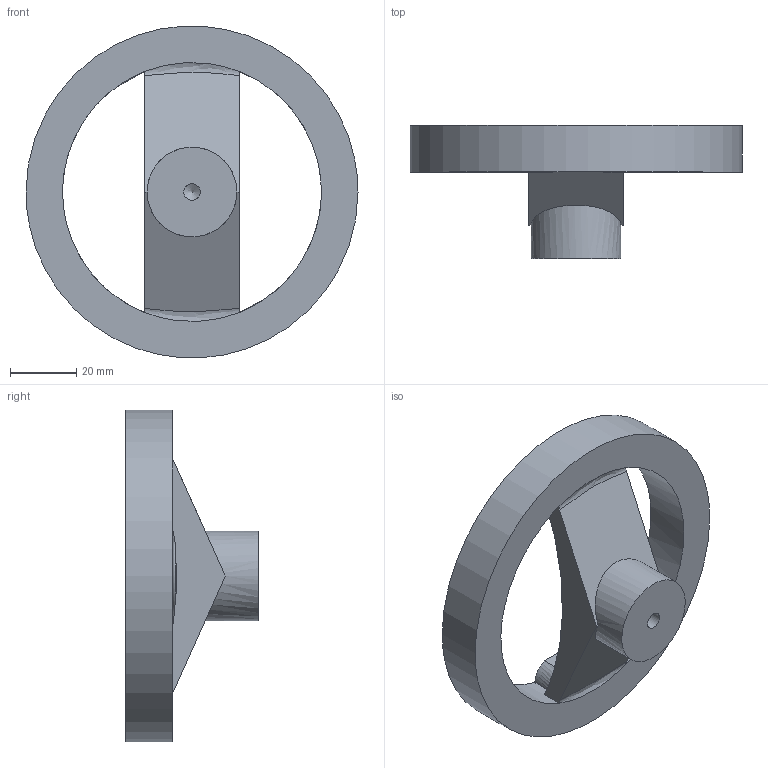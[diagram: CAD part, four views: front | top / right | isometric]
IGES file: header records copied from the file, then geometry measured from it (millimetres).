
Global section: file name: DR_ASH_M; native system: Autodesk Inventor 2015; preprocessor: unknown; author: Administrator; date: 20170808.090314; units: millimetre
Bounding box: 100 x 40 x 99.82 mm (x, y, z)
Volume: 70714 mm3; surface area: 21019.6 mm2
Topology: 1 solids, 1 shells, 24 faces, 71 edges, 48 vertices
Faces by surface type: bspline 24
